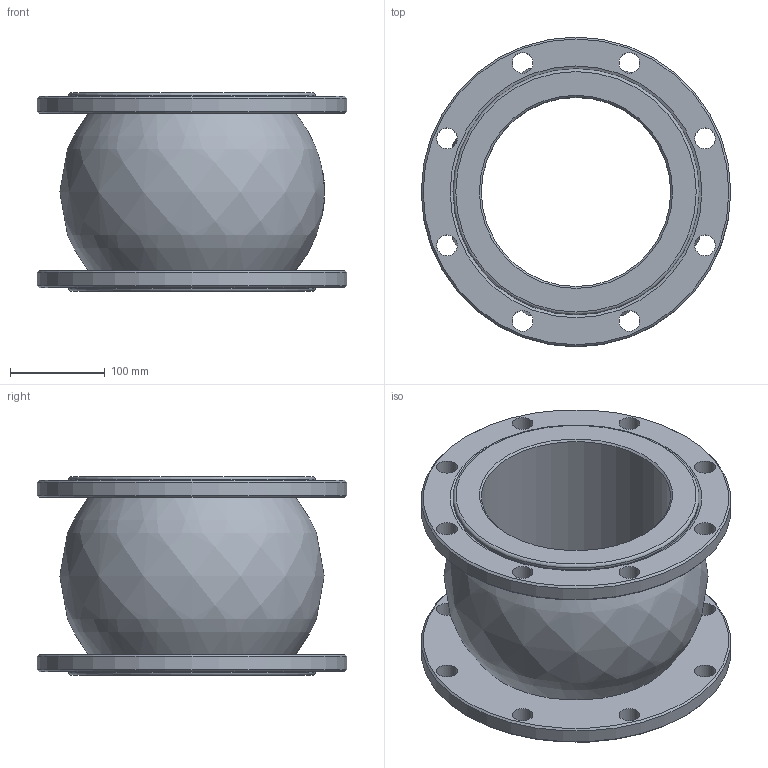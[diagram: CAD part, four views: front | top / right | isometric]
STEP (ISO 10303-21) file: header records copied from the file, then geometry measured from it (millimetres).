
FILE_DESCRIPTION(/* description */ ('D140-02168','CAx-IF Rec.Pracs.---Representation and Presentation of Product Manufacturing Information (PMI)---4.0---2014-10-13'),/* implementation_level */ '2;1');
FILE_NAME(/* name */ '',/* time_stamp */ '2026-04-30T11:05:10+03:00',/* author */ ('DN.RU'),/* organization */ ('DN.RU'),/* preprocessor_version */ 'ST-DEVELOPER v20',/* originating_system */ 'Autodesk Inventor 2025',/* authorisation */ '');
FILE_SCHEMA (('AP242_MANAGED_MODEL_BASED_3D_ENGINEERING_MIM_LF { 1 0 10303 442 1 1 4 }'));
Length unit declared in the file: millimetre
Products named in the file (1): CR-E25-F
Bounding box: 327 x 327 x 210 mm (x, y, z)
Volume: 5583904.8 mm3; surface area: 522439.3 mm2
Topology: 1 solids, 1 shells, 107 faces, 288 edges, 190 vertices
Faces by surface type: plane 43, bspline 34, cylinder 21, cone 7, torus 2
Full cylindrical faces by diameter (mm): 22 x16, 200 x1, 260 x2, 327 x2
Entity records: 4502 total; most frequent: CARTESIAN_POINT 1608, ORIENTED_EDGE 576, DIRECTION 536, EDGE_CURVE 288, AXIS2_PLACEMENT_3D 224, VERTEX_POINT 190, EDGE_LOOP 148, CIRCLE 137
